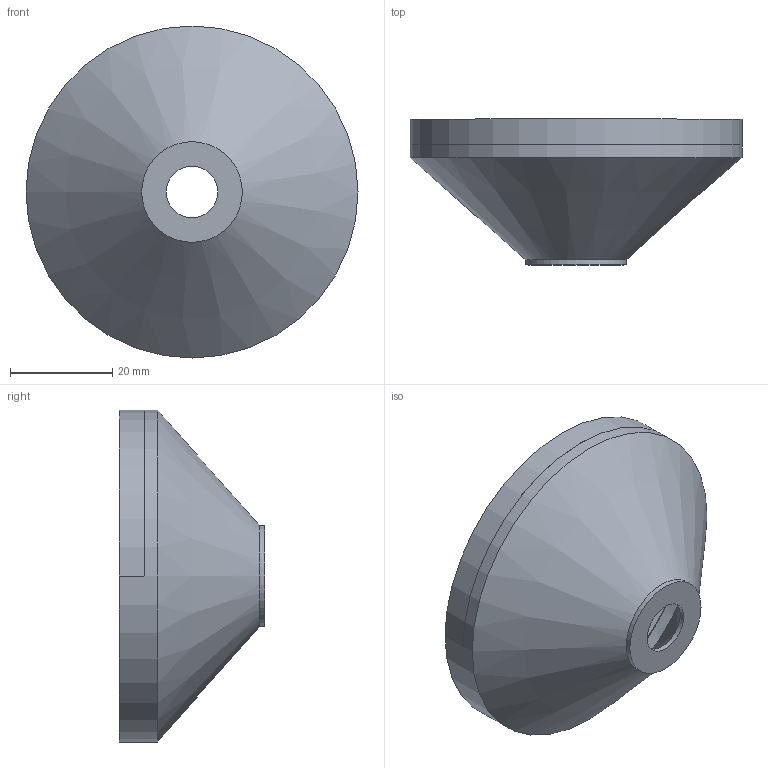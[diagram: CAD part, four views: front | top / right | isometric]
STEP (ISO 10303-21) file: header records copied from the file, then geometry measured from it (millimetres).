
FILE_DESCRIPTION(/* description */ (''),/* implementation_level */ '2;1');
FILE_NAME(/* name */ '/Users/josh/Downloads/laminar/nozzle.step',/* time_stamp */ '2020-08-31T13:10:57-06:00',/* author */ (''),/* organization */ (''),/* preprocessor_version */ 'ST-DEVELOPER v18.1',/* originating_system */ 'Autodesk Translation Framework v9.3.0.1241',/* authorisation */ '');
FILE_SCHEMA (('AUTOMOTIVE_DESIGN { 1 0 10303 214 3 1 1 }'));
Length unit declared in the file: millimetre
Products named in the file (2): Laminar Flow; Component7
Assembly tree (1 placements, depth 2):
  Laminar Flow
    Component7
Bounding box: 65 x 28.53 x 65 mm (x, y, z)
Volume: 11738.4 mm3; surface area: 11943.9 mm2
Topology: 1 solids, 1 shells, 20 faces, 47 edges, 30 vertices
Faces by surface type: cylinder 12, plane 4, cone 2, bspline 2
Full cylindrical faces by diameter (mm): 10.16 x1, 19.7 x1, 60 x1, 60.022 x1, 62.262 x2, 65 x1
Entity records: 1793 total; most frequent: CARTESIAN_POINT 1303, ORIENTED_EDGE 94, DIRECTION 87, EDGE_CURVE 47, AXIS2_PLACEMENT_3D 37, VERTEX_POINT 30, EDGE_LOOP 23, FACE_OUTER_BOUND 20
